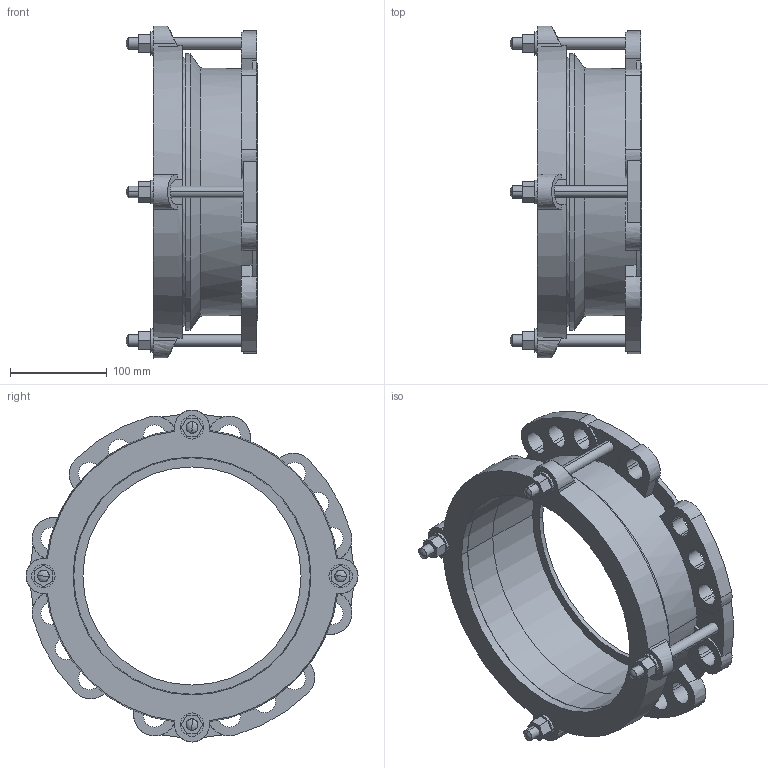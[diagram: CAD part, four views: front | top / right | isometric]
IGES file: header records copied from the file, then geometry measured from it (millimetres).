
Start section:  PTC IGES file: maxidaptor_218-244.igs
Global section: file name: maxidaptor_218-244.igs; native system: Creo Parametric by PTC Inc.; preprocessor: 2016130; author: MReader; organization: Unknown; date: 20181009.105648; units: millimetre
Bounding box: 136 x 342.5 x 342.5 mm (x, y, z)
Surface area: 353085.5 mm2 (no closed solid volume)
Topology: 0 solids, 0 shells, 256 faces, 1400 edges, 1392 vertices
Faces by surface type: bspline 130, revolution 126
